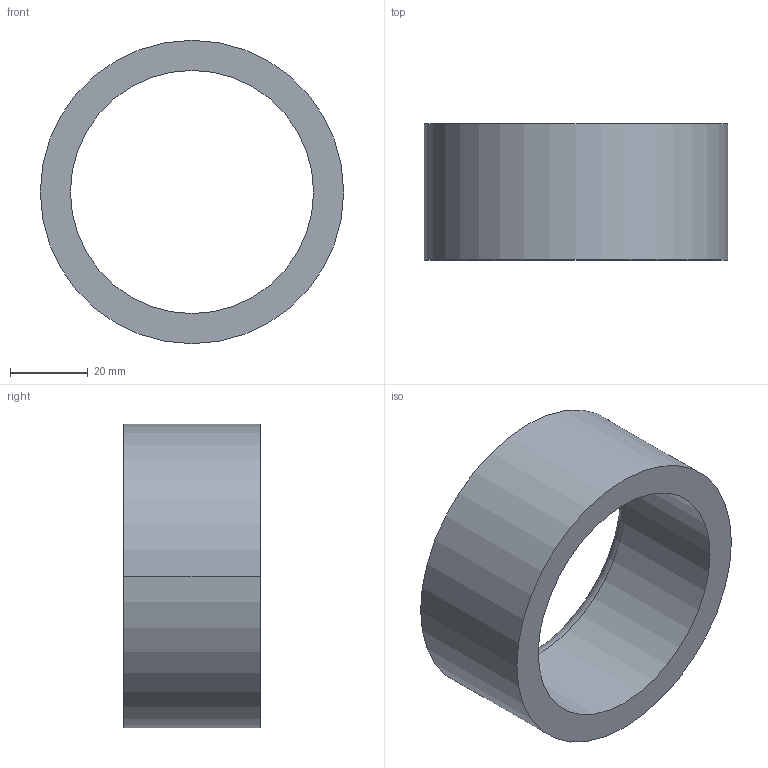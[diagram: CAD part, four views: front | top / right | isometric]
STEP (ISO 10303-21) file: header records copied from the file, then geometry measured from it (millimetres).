
FILE_DESCRIPTION (( 'STEP AP203' ), '1' );
FILE_NAME ('30800.WPP78M62.5.step', '2019-01-23T23:05:02', ( '' ), ( '' ), 'SwSTEP 2.0', 'SolidWorks 2017', '' );
FILE_SCHEMA (( 'CONFIG_CONTROL_DESIGN' ));
Length unit declared in the file: millimetre
Products named in the file (1): 30800.WPP78M62.5
Bounding box: 78 x 35 x 78 mm (x, y, z)
Volume: 59170.6 mm3; surface area: 18539.6 mm2
Topology: 1 solids, 1 shells, 8 faces, 16 edges, 10 vertices
Faces by surface type: cylinder 4, torus 2, plane 2
Entity records: 297 total; most frequent: DIRECTION 46, CARTESIAN_POINT 35, ORIENTED_EDGE 32, AXIS2_PLACEMENT_3D 21, EDGE_CURVE 16, CIRCLE 12, VERTEX_POINT 10, EDGE_LOOP 10
